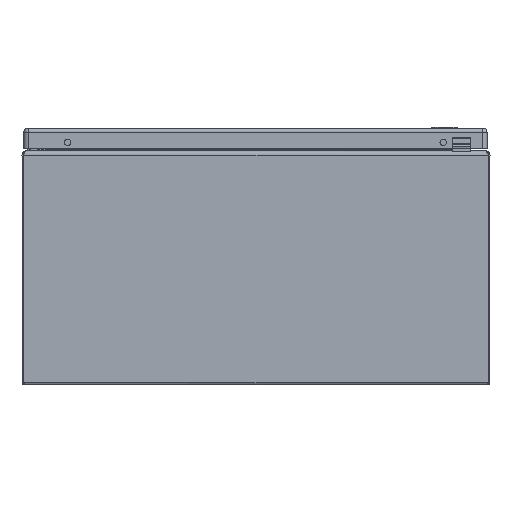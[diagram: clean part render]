
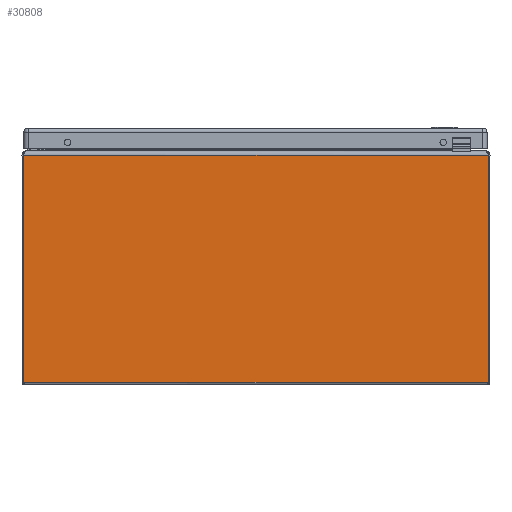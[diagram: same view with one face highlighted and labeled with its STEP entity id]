
A CAD part, front view. The second image highlights one B-rep face of the part: STEP entity #30808.
In plain terms, the highlighted planar face has unit normal (0, -1, 0).
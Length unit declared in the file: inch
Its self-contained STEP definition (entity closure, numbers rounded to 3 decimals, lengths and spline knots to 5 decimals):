
#37 = AXIS2_PLACEMENT_3D ( 'NONE', #32686, #32709, #32710 ) ;
#6970 = VERTEX_POINT ( 'NONE', #43036 ) ;
#7025 = VERTEX_POINT ( 'NONE', #43091 ) ;
#7026 = VERTEX_POINT ( 'NONE', #43092 ) ;
#7042 = VERTEX_POINT ( 'NONE', #43108 ) ;
#14982 = CARTESIAN_POINT ( 'NONE',  ( 7.94693, -10., 7.859 ) ) ;
#14983 = DIRECTION ( 'NONE',  ( 0., 0., 1. ) ) ;
#15003 = CARTESIAN_POINT ( 'NONE',  ( -108., -10., 7.859 ) ) ;
#15004 = DIRECTION ( 'NONE',  ( 1., 0., 0. ) ) ;
#15010 = CARTESIAN_POINT ( 'NONE',  ( -108., -10., 0.097 ) ) ;
#15011 = DIRECTION ( 'NONE',  ( 1., 0., 0. ) ) ;
#18499 = CARTESIAN_POINT ( 'NONE',  ( -7.94693, -10., 7.859 ) ) ;
#18500 = DIRECTION ( 'NONE',  ( 0., 0., -1. ) ) ;
#29554 = FACE_OUTER_BOUND ( 'NONE', #37467, .T. ) ;
#30808 = ADVANCED_FACE ( 'NONE', ( #29554 ), #32698, .T. ) ;
#32686 = CARTESIAN_POINT ( 'NONE',  ( -108., -10., 7.859 ) ) ;
#32698 = PLANE ( 'NONE',  #37 ) ;
#32709 = DIRECTION ( 'NONE',  ( 0., -1., 0. ) ) ;
#32710 = DIRECTION ( 'NONE',  ( 0., 0., -1. ) ) ;
#37467 = EDGE_LOOP ( 'NONE', ( #44539, #44538, #44537, #44536 ) ) ;
#40296 = EDGE_CURVE ( 'NONE', #7025, #7042, #43372, .T. ) ;
#40382 = EDGE_CURVE ( 'NONE', #6970, #7026, #43433, .T. ) ;
#40402 = EDGE_CURVE ( 'NONE', #7025, #7026, #43455, .T. ) ;
#40410 = EDGE_CURVE ( 'NONE', #7042, #6970, #43463, .T. ) ;
#43036 = CARTESIAN_POINT ( 'NONE',  ( 7.94693, -10., 0.097 ) ) ;
#43091 = CARTESIAN_POINT ( 'NONE',  ( -7.94693, -10., 7.859 ) ) ;
#43092 = CARTESIAN_POINT ( 'NONE',  ( 7.94693, -10., 7.859 ) ) ;
#43108 = CARTESIAN_POINT ( 'NONE',  ( -7.94693, -10., 0.097 ) ) ;
#43368 = VECTOR ( 'NONE', #18500, 39.37008 ) ;
#43372 = LINE ( 'NONE', #18499, #43368 ) ;
#43433 = LINE ( 'NONE', #14982, #43437 ) ;
#43437 = VECTOR ( 'NONE', #14983, 39.37008 ) ;
#43455 = LINE ( 'NONE', #15003, #43456 ) ;
#43456 = VECTOR ( 'NONE', #15004, 39.37008 ) ;
#43463 = LINE ( 'NONE', #15010, #43464 ) ;
#43464 = VECTOR ( 'NONE', #15011, 39.37008 ) ;
#44536 = ORIENTED_EDGE ( 'NONE', *, *, #40410, .T. ) ;
#44537 = ORIENTED_EDGE ( 'NONE', *, *, #40296, .T. ) ;
#44538 = ORIENTED_EDGE ( 'NONE', *, *, #40402, .F. ) ;
#44539 = ORIENTED_EDGE ( 'NONE', *, *, #40382, .T. ) ;
